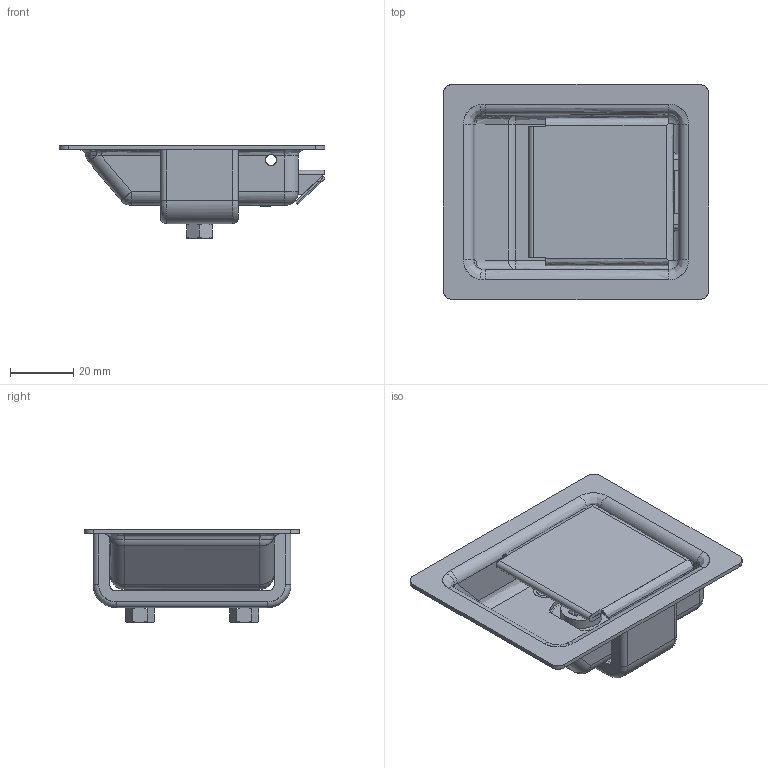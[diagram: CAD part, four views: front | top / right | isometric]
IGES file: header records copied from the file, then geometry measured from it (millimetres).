
Start section: SolidWorks IGES file using analytic representation for surfaces
Global section: file name: E:\DATA FOLDER FOR WEB-2015\'C' SECTION\FINAL IGS\DFP-84-SS.IGS; native system: SolidWorks 2015; preprocessor: SolidWorks 2015; author: solidworksqc; date: 151214.182948; units: millimetre
Bounding box: 84 x 68 x 29.4 mm (x, y, z)
Surface area: 30730.9 mm2 (no closed solid volume)
Topology: 0 solids, 0 shells, 223 faces, 6439 edges, 6431 vertices
Faces by surface type: bspline 122, revolution 101
